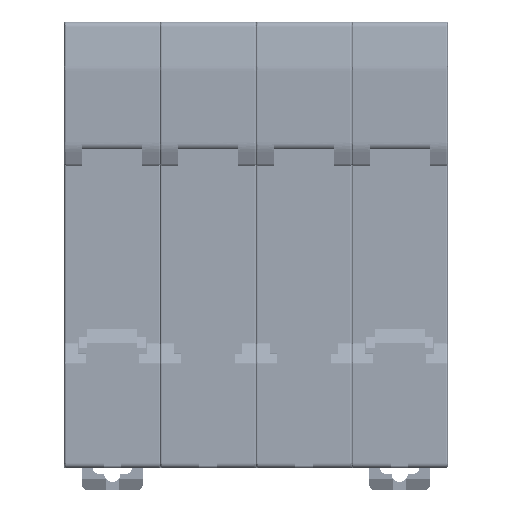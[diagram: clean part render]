
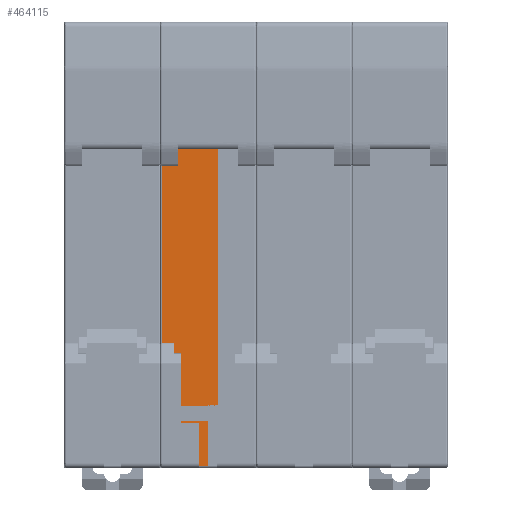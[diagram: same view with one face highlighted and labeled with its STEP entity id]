
A CAD part, left-side view. The second image highlights one B-rep face of the part: STEP entity #464115.
In plain terms, the highlighted planar face has unit normal (-1, 0, 0).
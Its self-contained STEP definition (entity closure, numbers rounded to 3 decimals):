
#293 = ORIENTED_EDGE ( 'NONE', *, *, #79214, .F. ) ;
#2693 = EDGE_CURVE ( 'NONE', #381789, #163166, #237654, .T. ) ;
#2794 = DIRECTION ( 'NONE',  ( 0., 0., -1. ) ) ;
#3246 = DIRECTION ( 'NONE',  ( 0., 0., -1. ) ) ;
#9008 = VERTEX_POINT ( 'NONE', #52112 ) ;
#23174 = DIRECTION ( 'NONE',  ( 0., 1., 0. ) ) ;
#27541 = LINE ( 'NONE', #123967, #165189 ) ;
#27946 = VECTOR ( 'NONE', #537396, 1000. ) ;
#37609 = VERTEX_POINT ( 'NONE', #562154 ) ;
#41022 = LINE ( 'NONE', #307222, #518445 ) ;
#49490 = LINE ( 'NONE', #236820, #97095 ) ;
#50986 = ORIENTED_EDGE ( 'NONE', *, *, #510518, .F. ) ;
#51039 = CARTESIAN_POINT ( 'NONE',  ( 5.5, 52.6, 22. ) ) ;
#51703 = CARTESIAN_POINT ( 'NONE',  ( 5.5, 50., 22. ) ) ;
#52112 = CARTESIAN_POINT ( 'NONE',  ( 5.5, 50., 15.4 ) ) ;
#57871 = VECTOR ( 'NONE', #83599, 1000. ) ;
#61839 = CARTESIAN_POINT ( 'NONE',  ( 5.5, 52.6, 57.6 ) ) ;
#79214 = EDGE_CURVE ( 'NONE', #9008, #456026, #119017, .T. ) ;
#79252 = VERTEX_POINT ( 'NONE', #238744 ) ;
#80696 = LINE ( 'NONE', #221163, #57871 ) ;
#83599 = DIRECTION ( 'NONE',  ( 0., -1., 0. ) ) ;
#97095 = VECTOR ( 'NONE', #2794, 1000. ) ;
#102247 = LINE ( 'NONE', #459435, #119318 ) ;
#104155 = CARTESIAN_POINT ( 'NONE',  ( 5.5, 43.7, 7.7 ) ) ;
#106233 = DIRECTION ( 'NONE',  ( 0., 0., 1. ) ) ;
#107033 = ORIENTED_EDGE ( 'NONE', *, *, #2693, .F. ) ;
#108629 = FACE_OUTER_BOUND ( 'NONE', #445110, .T. ) ;
#114576 = VECTOR ( 'NONE', #267073, 1000. ) ;
#119017 = LINE ( 'NONE', #476155, #412126 ) ;
#119318 = VECTOR ( 'NONE', #149134, 1000. ) ;
#122104 = EDGE_CURVE ( 'NONE', #456026, #79252, #41022, .T. ) ;
#123967 = CARTESIAN_POINT ( 'NONE',  ( 5.5, 50., 21.4 ) ) ;
#124537 = CARTESIAN_POINT ( 'NONE',  ( 5.5, 41.9, 10.5 ) ) ;
#125327 = ORIENTED_EDGE ( 'NONE', *, *, #424274, .T. ) ;
#133559 = CARTESIAN_POINT ( 'NONE',  ( 5.5, 51.1, 12.25 ) ) ;
#149134 = DIRECTION ( 'NONE',  ( 0., -0.33, 0.944 ) ) ;
#150275 = VERTEX_POINT ( 'NONE', #202377 ) ;
#152639 = PLANE ( 'NONE',  #203178 ) ;
#158335 = DIRECTION ( 'NONE',  ( 0., -1., 0. ) ) ;
#159733 = VECTOR ( 'NONE', #158335, 1000. ) ;
#160052 = CARTESIAN_POINT ( 'NONE',  ( 5.5, 41.9, 57.6 ) ) ;
#162112 = VERTEX_POINT ( 'NONE', #402336 ) ;
#163166 = VERTEX_POINT ( 'NONE', #160052 ) ;
#165189 = VECTOR ( 'NONE', #531146, 1000. ) ;
#185057 = CARTESIAN_POINT ( 'NONE',  ( 5.5, 41.9, 21.4 ) ) ;
#185184 = VERTEX_POINT ( 'NONE', #292362 ) ;
#191016 = VECTOR ( 'NONE', #3246, 1000. ) ;
#202377 = CARTESIAN_POINT ( 'NONE',  ( 5.5, 49.7, -0.5 ) ) ;
#203178 = AXIS2_PLACEMENT_3D ( 'NONE', #386390, #483190, #211092 ) ;
#211092 = DIRECTION ( 'NONE',  ( 0., 0., 1. ) ) ;
#212150 = VERTEX_POINT ( 'NONE', #104155 ) ;
#216215 = ORIENTED_EDGE ( 'NONE', *, *, #499468, .F. ) ;
#217117 = EDGE_CURVE ( 'NONE', #162112, #212150, #80696, .T. ) ;
#218966 = DIRECTION ( 'NONE',  ( 0., 0., 1. ) ) ;
#221163 = CARTESIAN_POINT ( 'NONE',  ( 5.5, 52.6, 7.7 ) ) ;
#223261 = LINE ( 'NONE', #185057, #114576 ) ;
#235557 = ORIENTED_EDGE ( 'NONE', *, *, #262769, .F. ) ;
#236820 = CARTESIAN_POINT ( 'NONE',  ( 5.5, 49.7, 40. ) ) ;
#237654 = LINE ( 'NONE', #61839, #159733 ) ;
#238744 = CARTESIAN_POINT ( 'NONE',  ( 5.5, 50., 18.75 ) ) ;
#242476 = EDGE_CURVE ( 'NONE', #256660, #9008, #102247, .T. ) ;
#253760 = DIRECTION ( 'NONE',  ( 0., 0.331, 0.944 ) ) ;
#256660 = VERTEX_POINT ( 'NONE', #133559 ) ;
#261607 = CARTESIAN_POINT ( 'NONE',  ( 5.5, 52.2, 57.6 ) ) ;
#262769 = EDGE_CURVE ( 'NONE', #185184, #162112, #269568, .T. ) ;
#263431 = DIRECTION ( 'NONE',  ( 0., -0.894, 0.447 ) ) ;
#263634 = ORIENTED_EDGE ( 'NONE', *, *, #428771, .F. ) ;
#267073 = DIRECTION ( 'NONE',  ( 0., 0., -1. ) ) ;
#269568 = LINE ( 'NONE', #403948, #191016 ) ;
#272854 = EDGE_CURVE ( 'NONE', #163166, #525363, #223261, .T. ) ;
#273219 = ORIENTED_EDGE ( 'NONE', *, *, #272854, .F. ) ;
#273543 = LINE ( 'NONE', #297816, #27946 ) ;
#292362 = CARTESIAN_POINT ( 'NONE',  ( 5.5, 48.7, 10.5 ) ) ;
#297816 = CARTESIAN_POINT ( 'NONE',  ( 5.5, 75.443, -0.5 ) ) ;
#300713 = CARTESIAN_POINT ( 'NONE',  ( 5.5, 43.7, 40. ) ) ;
#307222 = CARTESIAN_POINT ( 'NONE',  ( 5.5, 51., 18.25 ) ) ;
#311850 = ORIENTED_EDGE ( 'NONE', *, *, #501431, .T. ) ;
#331564 = VECTOR ( 'NONE', #106233, 1000. ) ;
#351771 = CARTESIAN_POINT ( 'NONE',  ( 5.5, 51., 18.25 ) ) ;
#381789 = VERTEX_POINT ( 'NONE', #261607 ) ;
#385003 = ORIENTED_EDGE ( 'NONE', *, *, #217117, .F. ) ;
#386390 = CARTESIAN_POINT ( 'NONE',  ( 5.5, 52.6, 21.4 ) ) ;
#386893 = VECTOR ( 'NONE', #23174, 1000. ) ;
#387548 = EDGE_CURVE ( 'NONE', #470129, #150275, #273543, .T. ) ;
#395891 = DIRECTION ( 'NONE',  ( 0., 0.386, 0.923 ) ) ;
#402336 = CARTESIAN_POINT ( 'NONE',  ( 5.5, 48.7, 7.7 ) ) ;
#403948 = CARTESIAN_POINT ( 'NONE',  ( 5.5, 48.7, 21.4 ) ) ;
#407968 = DIRECTION ( 'NONE',  ( 0., 1., 0. ) ) ;
#409840 = ORIENTED_EDGE ( 'NONE', *, *, #122104, .F. ) ;
#411291 = CARTESIAN_POINT ( 'NONE',  ( 5.5, 43.7, -0.5 ) ) ;
#412126 = VECTOR ( 'NONE', #253760, 1000. ) ;
#422080 = ORIENTED_EDGE ( 'NONE', *, *, #562821, .F. ) ;
#424274 = EDGE_CURVE ( 'NONE', #37609, #150275, #49490, .T. ) ;
#428771 = EDGE_CURVE ( 'NONE', #37609, #256660, #448726, .T. ) ;
#429814 = LINE ( 'NONE', #559239, #386893 ) ;
#444192 = LINE ( 'NONE', #300713, #475179 ) ;
#445110 = EDGE_LOOP ( 'NONE', ( #125327, #472276, #311850, #385003, #235557, #422080, #273219, #107033, #498304, #50986, #216215, #409840, #293, #476813, #263634 ) ) ;
#445345 = CARTESIAN_POINT ( 'NONE',  ( 5.5, 52.2, 22. ) ) ;
#448726 = LINE ( 'NONE', #575172, #533595 ) ;
#456026 = VERTEX_POINT ( 'NONE', #351771 ) ;
#459435 = CARTESIAN_POINT ( 'NONE',  ( 5.5, 51.1, 12.25 ) ) ;
#464115 = ADVANCED_FACE ( 'NONE', ( #108629 ), #152639, .F. ) ;
#470129 = VERTEX_POINT ( 'NONE', #411291 ) ;
#472276 = ORIENTED_EDGE ( 'NONE', *, *, #387548, .F. ) ;
#475179 = VECTOR ( 'NONE', #218966, 1000. ) ;
#476155 = CARTESIAN_POINT ( 'NONE',  ( 5.5, 50., 15.4 ) ) ;
#476813 = ORIENTED_EDGE ( 'NONE', *, *, #242476, .F. ) ;
#478322 = EDGE_CURVE ( 'NONE', #557725, #381789, #554616, .T. ) ;
#483190 = DIRECTION ( 'NONE',  ( 1., 0., 0. ) ) ;
#498304 = ORIENTED_EDGE ( 'NONE', *, *, #478322, .F. ) ;
#499468 = EDGE_CURVE ( 'NONE', #79252, #516920, #27541, .T. ) ;
#501431 = EDGE_CURVE ( 'NONE', #470129, #212150, #444192, .T. ) ;
#501907 = LINE ( 'NONE', #51039, #562666 ) ;
#507590 = CARTESIAN_POINT ( 'NONE',  ( 5.5, 52.2, 187.895 ) ) ;
#510518 = EDGE_CURVE ( 'NONE', #516920, #557725, #501907, .T. ) ;
#516920 = VERTEX_POINT ( 'NONE', #51703 ) ;
#518445 = VECTOR ( 'NONE', #263431, 1000. ) ;
#525363 = VERTEX_POINT ( 'NONE', #124537 ) ;
#531146 = DIRECTION ( 'NONE',  ( 0., 0., 1. ) ) ;
#533595 = VECTOR ( 'NONE', #395891, 1000. ) ;
#537396 = DIRECTION ( 'NONE',  ( 0., 1., 0. ) ) ;
#554616 = LINE ( 'NONE', #507590, #331564 ) ;
#557725 = VERTEX_POINT ( 'NONE', #445345 ) ;
#559239 = CARTESIAN_POINT ( 'NONE',  ( 5.5, 52.6, 10.5 ) ) ;
#562154 = CARTESIAN_POINT ( 'NONE',  ( 5.5, 49.7, 8.9 ) ) ;
#562666 = VECTOR ( 'NONE', #407968, 1000. ) ;
#562821 = EDGE_CURVE ( 'NONE', #525363, #185184, #429814, .T. ) ;
#575172 = CARTESIAN_POINT ( 'NONE',  ( 5.5, 49.7, 8.9 ) ) ;
